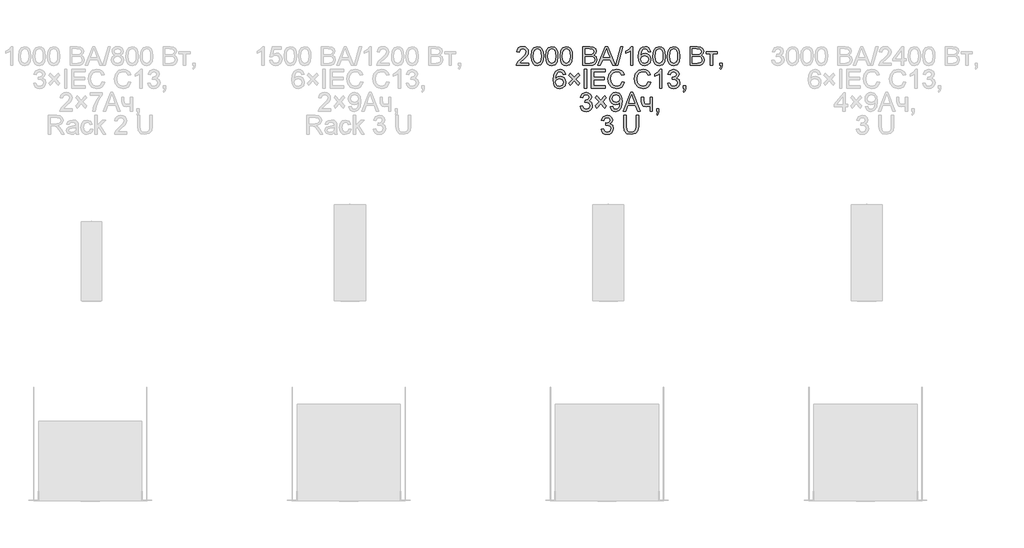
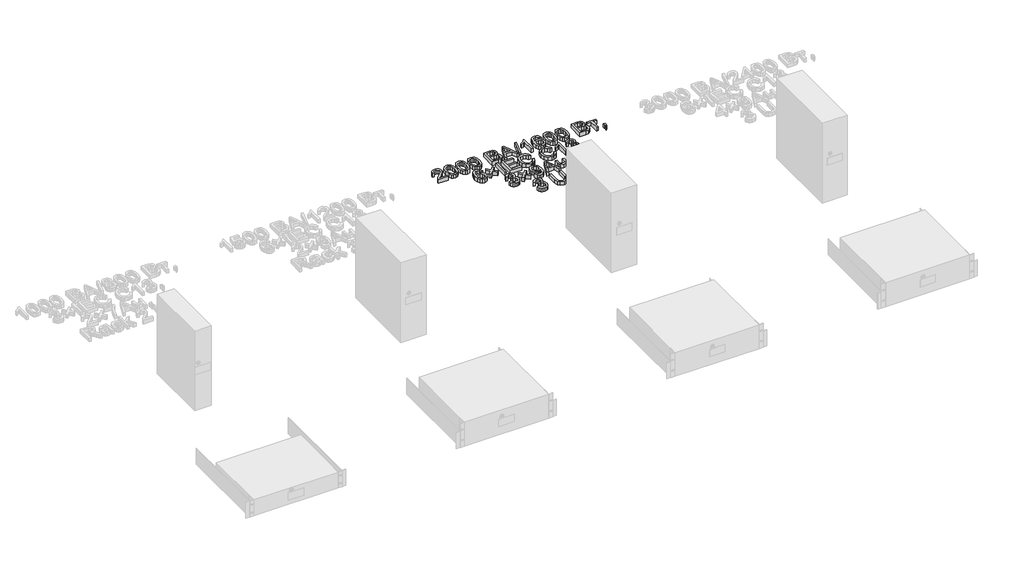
# One storey, part 73 of 74: 1 proxy.
"""IFC4 building model written with IfcOpenShell, lengths in millimetres."""

from ifc_helpers import new_model, si_unit, origin, origin_with_axes, place, context, project, spatial, polyline, outline, extrude, element, save

model = new_model("IFC4")

# Units and contexts
model_context = context("Model", 3, world=origin())
ifc_project = project(units=[si_unit("LENGTHUNIT", "METRE", prefix="MILLI")], contexts=[model_context])

# Site, building, storey
site = spatial("IfcSite", under=ifc_project)
building = spatial("IfcBuilding", under=site)
storey = spatial("IfcBuildingStorey", under=building, Name="Этаж 01", Elevation=0.0)

# Proxy
placement = place(None, origin())
element("IfcBuildingElementProxy", 1, Name="80 мм Arial", ObjectType="80 мм Arial", at=placement, inside=storey, context=model_context, shape_type="SweptSolid", body=[
    extrude(outline(polyline([(3213.6923443, 4972.4107725), (3213.6923443, 4962.3651415), (3160.9527815, 4962.3651415), (3162.031902, 4969.2911332), (3168.133838, 4979.954806), (3180.7104971, 4991.5994974), (3198.0549069, 5008.3356756), (3202.3910094, 5019.715492), (3198.3001616, 5028.9272572), (3187.6168685, 5032.6845586), (3176.4823067, 5029.0155489), (3172.2541163, 5018.871816), (3162.2084853, 5020.1275199), (3164.6438641, 5029.8445096), (3169.9094818, 5036.9421796), (3177.730653, 5041.2831871), (3187.8326926, 5042.7301896), (3198.0083086, 5041.1213191), (3205.8147645, 5036.2947073), (3210.7811714, 5029.0842202), (3212.4366404, 5020.3237236), (3210.6511865, 5010.7980325), (3204.7160236, 5000.9486052), (3190.32448, 4987.1849135), (3178.7680802, 4977.5218797), (3174.235774, 4972.4107725), (3213.6923443, 4972.4107725)])), origin_with_axes(), (0.0, 0.0, 1.0), 20.0),
    extrude(outline(polyline([(3223.7379753, 5001.9001933), (3226.6908414, 5025.0228029), (3235.4611482, 5038.3548465), (3250.1077567, 5042.7301896), (3261.8407398, 5040.1403004), (3269.9439539, 5032.6747484), (3274.6528434, 5020.7848024), (3276.4775381, 5001.9001933), (3273.5541025, 4978.8756855), (3264.8132263, 4965.5142114), (3250.1077567, 4961.1094377), (3239.6697182, 4963.022424), (3231.7430875, 4968.7613832), (3225.7392534, 4982.3533966), (3223.7379753, 5001.9001933)]), holes=[polyline([(3233.7836063, 5001.9198136), (3234.9608287, 4986.1180557), (3238.4924959, 4976.9725093), (3250.1077567, 4971.1550687), (3261.7230176, 4976.9921297), (3265.2546847, 4986.1425811), (3266.4319071, 5001.9198136), (3265.2939255, 5017.3659524), (3261.8799806, 5026.5826226), (3256.6315308, 5031.1590746), (3249.9900345, 5032.6845586), (3238.6494588, 5027.3085764), (3235.0000694, 5017.5180102), (3233.7836063, 5001.9198136)])]), origin_with_axes(), (0.0, 0.0, 1.0), 20.0),
    extrude(outline(polyline([(3285.2674653, 5001.9001933), (3288.2203314, 5025.0228029), (3296.9906382, 5038.3548465), (3311.6372467, 5042.7301896), (3323.3702298, 5040.1403004), (3331.4734439, 5032.6747484), (3336.1823334, 5020.7848024), (3338.0070281, 5001.9001933), (3335.0835925, 4978.8756855), (3326.3427163, 4965.5142114), (3311.6372467, 4961.1094377), (3301.1992082, 4963.022424), (3293.2725775, 4968.7613832), (3287.2687433, 4982.3533966), (3285.2674653, 5001.9001933)]), holes=[polyline([(3295.3130963, 5001.9198136), (3296.4903187, 4986.1180557), (3300.0219858, 4976.9725093), (3311.6372467, 4971.1550687), (3323.2525075, 4976.9921297), (3326.7841747, 4986.1425811), (3327.9613971, 5001.9198136), (3326.8234154, 5017.3659524), (3323.4094705, 5026.5826226), (3318.1610207, 5031.1590746), (3311.5195244, 5032.6845586), (3300.1789488, 5027.3085764), (3296.5295594, 5017.5180102), (3295.3130963, 5001.9198136)])]), origin_with_axes(), (0.0, 0.0, 1.0), 20.0),
    extrude(outline(polyline([(3346.7969552, 5001.9001933), (3349.7498214, 5025.0228029), (3358.5201281, 5038.3548465), (3373.1667366, 5042.7301896), (3384.8997197, 5040.1403004), (3393.0029338, 5032.6747484), (3397.7118234, 5020.7848024), (3399.5365181, 5001.9001933), (3396.6130825, 4978.8756855), (3387.8722063, 4965.5142114), (3373.1667366, 4961.1094377), (3362.7286982, 4963.022424), (3354.8020674, 4968.7613832), (3348.7982333, 4982.3533966), (3346.7969552, 5001.9001933)]), holes=[polyline([(3356.8425862, 5001.9198136), (3358.0198086, 4986.1180557), (3361.5514758, 4976.9725093), (3373.1667366, 4971.1550687), (3384.7819975, 4976.9921297), (3388.3136647, 4986.1425811), (3389.490887, 5001.9198136), (3388.3529054, 5017.3659524), (3384.9389605, 5026.5826226), (3379.6905107, 5031.1590746), (3373.0490144, 5032.6845586), (3361.7084388, 5027.3085764), (3358.0590494, 5017.5180102), (3356.8425862, 5001.9198136)])]), origin_with_axes(), (0.0, 0.0, 1.0), 20.0),
    extrude(outline(polyline([(3443.4861538, 4962.3651415), (3443.4861538, 5042.7301896), (3474.1527969, 5042.7301896), (3489.1721925, 5040.3659347), (3498.0406011, 5033.0965865), (3501.2485321, 5022.815511), (3498.5507308, 5013.4271625), (3490.3984658, 5006.3147772), (3500.296944, 4998.8197947), (3503.7599398, 4986.3216171), (3501.3956849, 4975.5206017), (3495.5390035, 4967.8294154), (3486.7981273, 4963.7483778), (3473.9173524, 4962.3651415), (3443.4861538, 4962.3651415)]), holes=[polyline([(3453.5317848, 4972.4107725), (3474.1331765, 4972.4107725), (3481.5889183, 4972.80318), (3487.8968682, 4974.9908516), (3492.0760077, 4979.4544865), (3493.7143088, 4986.2235152), (3491.7915123, 4994.0324237), (3485.5620438, 4998.6922623), (3473.1521578, 5000.0362578), (3453.5317848, 5000.0362578), (3453.5317848, 4972.4107725)]), polyline([(3453.5317848, 5010.0818888), (3471.8768336, 5010.0818888), (3482.5895573, 5010.9451853), (3489.0348498, 5014.663246), (3491.2029011, 5021.2066404), (3489.1820026, 5027.759845), (3483.3939926, 5031.6348687), (3470.4837871, 5032.6845586), (3453.5317848, 5032.6845586), (3453.5317848, 5010.0818888)])]), origin_with_axes(), (0.0, 0.0, 1.0), 20.0),
    extrude(outline(polyline([(3508.2137645, 4962.3651415), (3540.2930745, 5042.7301896), (3548.8475572, 5042.7301896), (3580.9268671, 4962.3651415), (3570.3122453, 4962.3651415), (3561.1102903, 4987.4792191), (3528.010721, 4987.4792191), (3518.8283864, 4962.3651415), (3508.2137645, 4962.3651415)]), holes=[polyline([(3531.6993511, 4997.5248501), (3557.4412806, 4997.5248501), (3550.2013629, 5017.2825658), (3544.5703158, 5032.6845586), (3539.5671207, 5019.0091586), (3531.6993511, 4997.5248501)])]), origin_with_axes(), (0.0, 0.0, 1.0), 20.0),
    extrude(outline(polyline([(3582.8692841, 4962.3651415), (3605.4719539, 5042.7301896), (3614.5365662, 5042.7301896), (3591.9338964, 4962.3651415), (3582.8692841, 4962.3651415)])), origin_with_axes(), (0.0, 0.0, 1.0), 20.0),
    extrude(outline(polyline([(3656.9558128, 4962.3651415), (3646.9101818, 4962.3651415), (3646.9101818, 5024.9933724), (3637.3943009, 5018.2145335), (3626.8189198, 5013.142667), (3626.8189198, 5022.6389276), (3641.5440098, 5032.0370863), (3650.4810897, 5042.7301896), (3656.9558128, 5042.7301896), (3656.9558128, 4962.3651415)])), origin_with_axes(), (0.0, 0.0, 1.0), 20.0),
    extrude(outline(polyline([(3732.2980454, 5021.3832237), (3722.2524144, 5020.1275199), (3718.446062, 5028.5054192), (3708.3808107, 5032.6845586), (3699.3161983, 5030.2516324), (3692.4588779, 5021.1183487), (3689.6041136, 5003.2147583), (3698.4627121, 5011.2296807), (3709.4403108, 5013.8490005), (3718.7207473, 5012.0586414), (3726.5100354, 5006.6875643), (3731.7928208, 4998.4813433), (3733.5537493, 4988.1855525), (3730.2379063, 4974.3237589), (3721.1144328, 4964.5135724), (3707.9491624, 4961.1094377), (3696.5521782, 4963.3657806), (3687.4753031, 4970.1348093), (3681.5376877, 4982.0836165), (3679.5584826, 4999.8792948), (3681.7559644, 5019.8871703), (3688.3484097, 5033.5674754), (3697.3492559, 5040.4395111), (3709.0086626, 5042.7301896), (3717.8231152, 5041.3126177), (3724.8815444, 5037.0599018), (3732.2980454, 5021.3832237)]), holes=[polyline([(3689.6041136, 4988.3425155), (3691.9291278, 4979.64088), (3698.1095453, 4973.3231199), (3707.1643475, 4971.1550687), (3719.0052427, 4975.6481341), (3723.5081183, 4987.8520062), (3719.0641038, 4999.5359383), (3706.7523197, 5003.8033695), (3694.5974986, 4999.5359383), (3689.6041136, 4988.3425155)])]), origin_with_axes(), (0.0, 0.0, 1.0), 20.0),
    extrude(outline(polyline([(3742.3436764, 5001.9001933), (3745.2965426, 5025.0228029), (3754.0668494, 5038.3548465), (3768.7134579, 5042.7301896), (3780.446441, 5040.1403004), (3788.549655, 5032.6747484), (3793.2585446, 5020.7848024), (3795.0832393, 5001.9001933), (3792.1598037, 4978.8756855), (3783.4189275, 4965.5142114), (3768.7134579, 4961.1094377), (3758.2754194, 4963.022424), (3750.3487887, 4968.7613832), (3744.3449545, 4982.3533966), (3742.3436764, 5001.9001933)]), holes=[polyline([(3752.3893075, 5001.9198136), (3753.5665298, 4986.1180557), (3757.098197, 4976.9725093), (3768.7134579, 4971.1550687), (3780.3287187, 4976.9921297), (3783.8603859, 4986.1425811), (3785.0376083, 5001.9198136), (3783.8996266, 5017.3659524), (3780.4856817, 5026.5826226), (3775.2372319, 5031.1590746), (3768.5957356, 5032.6845586), (3757.25516, 5027.3085764), (3753.6057706, 5017.5180102), (3752.3893075, 5001.9198136)])]), origin_with_axes(), (0.0, 0.0, 1.0), 20.0),
    extrude(outline(polyline([(3803.8731664, 5001.9001933), (3806.8260326, 5025.0228029), (3815.5963393, 5038.3548465), (3830.2429478, 5042.7301896), (3841.9759309, 5040.1403004), (3850.079145, 5032.6747484), (3854.7880345, 5020.7848024), (3856.6127292, 5001.9001933), (3853.6892937, 4978.8756855), (3844.9484174, 4965.5142114), (3830.2429478, 4961.1094377), (3819.8049094, 4963.022424), (3811.8782786, 4968.7613832), (3805.8744445, 4982.3533966), (3803.8731664, 5001.9001933)]), holes=[polyline([(3813.9187974, 5001.9198136), (3815.0960198, 4986.1180557), (3818.627687, 4976.9725093), (3830.2429478, 4971.1550687), (3841.8582087, 4976.9921297), (3845.3898758, 4986.1425811), (3846.5670982, 5001.9198136), (3845.4291166, 5017.3659524), (3842.0151717, 5026.5826226), (3836.7667219, 5031.1590746), (3830.1252256, 5032.6845586), (3818.78465, 5027.3085764), (3815.1352606, 5017.5180102), (3813.9187974, 5001.9198136)])]), origin_with_axes(), (0.0, 0.0, 1.0), 20.0),
    extrude(outline(polyline([(3900.5623649, 4962.3651415), (3900.5623649, 5042.7301896), (3931.2290081, 5042.7301896), (3946.2484036, 5040.3659347), (3955.1168123, 5033.0965865), (3958.3247433, 5022.815511), (3955.626942, 5013.4271625), (3947.474677, 5006.3147772), (3957.3731552, 4998.8197947), (3960.836151, 4986.3216171), (3958.4718961, 4975.5206017), (3952.6152147, 4967.8294154), (3943.8743385, 4963.7483778), (3930.9935636, 4962.3651415), (3900.5623649, 4962.3651415)]), holes=[polyline([(3910.6079959, 5010.0818888), (3928.9530448, 5010.0818888), (3939.6657685, 5010.9451853), (3946.111061, 5014.663246), (3948.2791123, 5021.2066404), (3946.2582138, 5027.759845), (3940.4702038, 5031.6348687), (3927.5599983, 5032.6845586), (3910.6079959, 5032.6845586), (3910.6079959, 5010.0818888)]), polyline([(3910.6079959, 4972.4107725), (3931.2093877, 4972.4107725), (3938.6651294, 4972.80318), (3944.9730794, 4974.9908516), (3949.1522189, 4979.4544865), (3950.79052, 4986.2235152), (3948.8677234, 4994.0324237), (3942.638255, 4998.6922623), (3930.228369, 5000.0362578), (3910.6079959, 5000.0362578), (3910.6079959, 4972.4107725)])]), origin_with_axes(), (0.0, 0.0, 1.0), 20.0),
    extrude(outline(polyline([(3968.3703743, 5021.3832237), (4016.0871216, 5021.3832237), (4016.0871216, 5011.3375927), (3997.2515635, 5011.3375927), (3997.2515635, 4962.3651415), (3987.2059324, 4962.3651415), (3987.2059324, 5011.3375927), (3968.3703743, 5011.3375927), (3968.3703743, 5021.3832237)])), origin_with_axes(), (0.0, 0.0, 1.0), 20.0),
    extrude(outline(polyline([(4027.3884565, 4962.3651415), (4027.3884565, 4972.4107725), (4037.4340875, 4972.4107725), (4037.4340875, 4962.3651415), (4035.6290132, 4952.0938762), (4029.8998642, 4946.0409911), (4027.3884565, 4949.8081028), (4031.0770866, 4954.1442052), (4032.3916516, 4962.3651415), (4027.3884565, 4962.3651415)])), origin_with_axes(), (0.0, 0.0, 1.0), 20.0),
    extrude(outline(polyline([(3370.027477, 4923.8033695), (3359.9818459, 4922.5476656), (3356.1754936, 4930.9255649), (3346.1102422, 4935.1047044), (3337.0456298, 4932.6717781), (3330.1883094, 4923.5384944), (3327.3335451, 4905.634904), (3336.1921436, 4913.6498264), (3347.1697423, 4916.2691462), (3356.4501788, 4914.4787872), (3364.2394669, 4909.10771), (3369.5222523, 4900.901489), (3371.2831808, 4890.6056982), (3367.9673378, 4876.7439046), (3358.8438643, 4866.9337181), (3345.678594, 4863.5295834), (3334.2816098, 4865.7859263), (3325.2047347, 4872.554955), (3319.2671193, 4884.5037622), (3317.2879141, 4902.2994406), (3319.4853959, 4922.307316), (3326.0778413, 4935.9876211), (3335.0786874, 4942.8596568), (3346.7380941, 4945.1503354), (3355.5525467, 4943.7327634), (3362.6109759, 4939.4800476), (3370.027477, 4923.8033695)]), holes=[polyline([(3327.3335451, 4890.7626612), (3329.6585594, 4882.0610257), (3335.8389769, 4875.7432656), (3344.893779, 4873.5752144), (3356.7346742, 4878.0682798), (3361.2375498, 4890.2721519), (3356.7935353, 4901.956084), (3344.4817512, 4906.2235152), (3332.3269301, 4901.956084), (3327.3335451, 4890.7626612)])]), origin_with_axes(), (0.0, 0.0, 1.0), 20.0),
    extrude(outline(polyline([(3383.9187011, 4887.387957), (3399.8700644, 4904.3399594), (3383.9187011, 4921.2919617), (3390.118739, 4930.0818888), (3407.1492228, 4912.0703864), (3424.1012252, 4930.0818888), (3430.301263, 4921.2919617), (3414.3498997, 4904.3399594), (3430.301263, 4887.387957), (3424.1012252, 4878.5980299), (3407.1492228, 4896.6095324), (3390.118739, 4878.5980299), (3383.9187011, 4887.387957)])), origin_with_axes(), (0.0, 0.0, 1.0), 20.0),
    extrude(outline(polyline([(3450.3925251, 4864.7852873), (3450.3925251, 4945.1503354), (3460.4381561, 4945.1503354), (3460.4381561, 4864.7852873), (3450.3925251, 4864.7852873)])), origin_with_axes(), (0.0, 0.0, 1.0), 20.0),
    extrude(outline(polyline([(3480.5294181, 4864.7852873), (3480.5294181, 4945.1503354), (3538.2917965, 4945.1503354), (3538.2917965, 4935.1047044), (3490.5750491, 4935.1047044), (3490.5750491, 4911.2463307), (3535.7803887, 4911.2463307), (3535.7803887, 4901.2006997), (3490.5750491, 4901.2006997), (3490.5750491, 4874.8309183), (3539.5475003, 4874.8309183), (3539.5475003, 4864.7852873), (3480.5294181, 4864.7852873)])), origin_with_axes(), (0.0, 0.0, 1.0), 20.0),
    extrude(outline(polyline([(3611.1226213, 4893.3525505), (3621.1682523, 4890.7626612), (3616.5329392, 4879.0566561), (3609.2586859, 4870.504626), (3599.7035642, 4865.273344), (3588.2256459, 4863.5295834), (3567.3201384, 4868.8074637), (3555.0574052, 4884.0917344), (3550.8488352, 4905.5760429), (3555.6067757, 4927.4135181), (3569.1350229, 4941.5696173), (3588.44147, 4946.4060392), (3599.455857, 4944.8413145), (3608.5621626, 4940.1471402), (3615.4758916, 4932.612917), (3619.9125485, 4922.5280452), (3609.8669174, 4920.1343597), (3601.6263607, 4932.4853846), (3588.0490626, 4936.3604082), (3572.3331437, 4932.0635465), (3563.4549249, 4920.5267672), (3560.8944662, 4905.5956633), (3563.9258139, 4888.2904942), (3573.3632133, 4877.234414), (3587.2250069, 4873.5752144), (3602.5975692, 4878.5587892), (3611.1226213, 4893.3525505)])), origin_with_axes(), (0.0, 0.0, 1.0), 20.0),
    extrude(outline(polyline([(3722.8802664, 4893.3525505), (3732.9258974, 4890.7626612), (3728.2905842, 4879.0566561), (3721.0163309, 4870.504626), (3711.4612092, 4865.273344), (3699.983291, 4863.5295834), (3679.0777835, 4868.8074637), (3666.8150503, 4884.0917344), (3662.6064803, 4905.5760429), (3667.3644207, 4927.4135181), (3680.892668, 4941.5696173), (3700.1991151, 4946.4060392), (3711.213502, 4944.8413145), (3720.3198077, 4940.1471402), (3727.2335366, 4932.612917), (3731.6701935, 4922.5280452), (3721.6245625, 4920.1343597), (3713.3840058, 4932.4853846), (3699.8067076, 4936.3604082), (3684.0907888, 4932.0635465), (3675.21257, 4920.5267672), (3672.6521113, 4905.5956633), (3675.6834589, 4888.2904942), (3685.1208584, 4877.234414), (3698.9826519, 4873.5752144), (3714.3552143, 4878.5587892), (3722.8802664, 4893.3525505)])), origin_with_axes(), (0.0, 0.0, 1.0), 20.0),
    extrude(outline(polyline([(3780.6426447, 4864.7852873), (3770.5970137, 4864.7852873), (3770.5970137, 4927.4135181), (3761.0811327, 4920.6346792), (3750.5057516, 4915.5628128), (3750.5057516, 4925.0590733), (3765.2308416, 4934.457232), (3774.1679216, 4945.1503354), (3780.6426447, 4945.1503354), (3780.6426447, 4864.7852873)])), origin_with_axes(), (0.0, 0.0, 1.0), 20.0),
    extrude(outline(polyline([(3804.5010184, 4886.1322532), (3814.5466494, 4887.387957), (3820.0894048, 4876.8125759), (3830.4587719, 4873.5752144), (3842.662644, 4878.0290391), (3847.1949502, 4889.0556887), (3842.7018847, 4899.4446763), (3831.2828276, 4903.5551445), (3824.2391137, 4902.4564036), (3825.3574749, 4912.5020346), (3826.9663455, 4912.3843123), (3838.3657823, 4915.2685072), (3843.4278385, 4924.1369158), (3839.7588288, 4931.9948752), (3830.3018089, 4935.1047044), (3820.7270669, 4931.9654447), (3815.8023532, 4922.5476656), (3805.7567222, 4923.8033695), (3813.9776585, 4939.558529), (3829.9486422, 4945.1503354), (3842.0642226, 4942.393673), (3850.5402238, 4934.8594497), (3853.4734695, 4924.725527), (3850.6873766, 4915.4647109), (3842.4468199, 4908.8134044), (3853.3949881, 4901.9462739), (3857.2405812, 4888.8791054), (3855.3177846, 4879.0885392), (3849.5493949, 4870.9068437), (3840.8428544, 4865.3738984), (3830.1056052, 4863.5295834), (3820.3935205, 4865.1041183), (3812.4865102, 4869.8277231), (3806.9879006, 4877.0529255), (3804.5010184, 4886.1322532)])), origin_with_axes(), (0.0, 0.0, 1.0), 20.0),
    extrude(outline(polyline([(3871.0533238, 4864.7852873), (3871.0533238, 4874.8309183), (3881.0989548, 4874.8309183), (3881.0989548, 4864.7852873), (3879.2938805, 4854.5140219), (3873.5647316, 4848.4611369), (3871.0533238, 4852.2282485), (3874.741954, 4856.5643509), (3876.056519, 4864.7852873), (3871.0533238, 4864.7852873)])), origin_with_axes(), (0.0, 0.0, 1.0), 20.0),
    extrude(outline(polyline([(3432.1848189, 4788.5523989), (3442.2304499, 4789.8081028), (3447.7732053, 4779.2327217), (3458.1425724, 4775.9953601), (3470.3464445, 4780.4491848), (3474.8787507, 4791.4758345), (3470.3856852, 4801.864822), (3458.9666281, 4805.9752902), (3451.9229142, 4804.8765493), (3453.0412754, 4814.9221803), (3454.650146, 4814.8044581), (3466.0495828, 4817.6886529), (3471.111639, 4826.5570615), (3467.4426293, 4834.4150209), (3457.9856095, 4837.5248501), (3448.4108674, 4834.3855904), (3443.4861538, 4824.9678113), (3433.4405227, 4826.2235152), (3441.6614591, 4841.9786748), (3457.6324427, 4847.5704811), (3469.7480231, 4844.8138187), (3478.2240243, 4837.2795954), (3481.1572701, 4827.1456727), (3478.3711771, 4817.8848566), (3470.1306204, 4811.2335502), (3481.0787886, 4804.3664196), (3484.9243817, 4791.2992511), (3483.0015851, 4781.5086849), (3477.2331954, 4773.3269894), (3468.5266549, 4767.7940442), (3457.7894057, 4765.9497291), (3448.0773211, 4767.524264), (3440.1703107, 4772.2478689), (3434.6717011, 4779.4730712), (3432.1848189, 4788.5523989)])), origin_with_axes(), (0.0, 0.0, 1.0), 20.0),
    extrude(outline(polyline([(3497.5599019, 4789.8081028), (3513.5112653, 4806.7601051), (3497.5599019, 4823.7121074), (3503.7599398, 4832.5020346), (3520.7904237, 4814.4905321), (3537.742426, 4832.5020346), (3543.9424639, 4823.7121074), (3527.9911006, 4806.7601051), (3543.9424639, 4789.8081028), (3537.742426, 4781.0181756), (3520.7904237, 4799.0296781), (3503.7599398, 4781.0181756), (3497.5599019, 4789.8081028)])), origin_with_axes(), (0.0, 0.0, 1.0), 20.0),
    extrude(outline(polyline([(3560.2666143, 4787.296695), (3570.3122453, 4788.5523989), (3574.8249311, 4778.9678466), (3583.3794138, 4775.9953601), (3591.5120584, 4777.9083465), (3597.0253833, 4783.0194537), (3600.3117957, 4791.7505197), (3601.7637034, 4803.4050213), (3601.7048422, 4805.3670586), (3593.6702995, 4797.7543539), (3582.65346, 4794.8309183), (3573.4931983, 4796.6163722), (3565.8682308, 4801.9727341), (3560.7252405, 4810.2476264), (3559.0109104, 4820.7886718), (3560.8086271, 4831.6779789), (3566.2017772, 4840.2128412), (3574.3025387, 4845.7310711), (3584.2230898, 4847.5704811), (3598.536152, 4843.3717213), (3608.3855793, 4831.4032937), (3611.7504733, 4808.9183461), (3608.3953895, 4784.5204122), (3598.4184297, 4770.6978594), (3582.9085248, 4765.9497291), (3574.3197065, 4767.3501332), (3567.4672912, 4771.5513456), (3560.2666143, 4787.296695)]), holes=[polyline([(3601.7048422, 4821.0241163), (3597.3687398, 4833.0710254), (3585.8515808, 4837.5248501), (3573.765431, 4832.7276689), (3569.0565414, 4820.2981625), (3573.5103661, 4809.1636008), (3585.5768956, 4804.8765493), (3597.1627259, 4809.1636008), (3601.7048422, 4821.0241163)])]), origin_with_axes(), (0.0, 0.0, 1.0), 20.0),
    extrude(outline(polyline([(3614.9485941, 4767.205433), (3647.027904, 4847.5704811), (3655.5823867, 4847.5704811), (3687.6616967, 4767.205433), (3677.0470748, 4767.205433), (3667.8451199, 4792.3195105), (3634.7455505, 4792.3195105), (3625.5632159, 4767.205433), (3614.9485941, 4767.205433)]), holes=[polyline([(3638.4341806, 4802.3651415), (3664.1761101, 4802.3651415), (3656.9361924, 4822.1228572), (3651.3051454, 4837.5248501), (3646.3019502, 4823.84945), (3638.4341806, 4802.3651415)])]), origin_with_axes(), (0.0, 0.0, 1.0), 20.0),
    extrude(outline(polyline([(3693.3712252, 4826.2235152), (3703.4168563, 4826.2235152), (3703.4168563, 4814.9025599), (3704.2311017, 4804.2879381), (3708.1453662, 4798.5391688), (3715.9150339, 4796.0866221), (3729.7866377, 4799.12778), (3729.7866377, 4826.2235152), (3739.8322687, 4826.2235152), (3739.8322687, 4767.205433), (3729.7866377, 4767.205433), (3729.7866377, 4789.4941768), (3713.2270428, 4786.0409911), (3701.8374162, 4789.6413296), (3695.1370588, 4798.4606873), (3693.3712252, 4809.9386055), (3693.3712252, 4826.2235152)])), origin_with_axes(), (0.0, 0.0, 1.0), 20.0),
    extrude(outline(polyline([(3757.412123, 4767.205433), (3757.412123, 4777.251064), (3767.457754, 4777.251064), (3767.457754, 4767.205433), (3765.6526797, 4756.9341677), (3759.9235307, 4750.8812826), (3757.412123, 4754.6483942), (3761.1007531, 4758.9844967), (3762.4153181, 4767.205433), (3757.412123, 4767.205433)])), origin_with_axes(), (0.0, 0.0, 1.0), 20.0),
    extrude(outline(polyline([(3521.3397941, 4690.9725446), (3531.3854251, 4692.2282485), (3536.9281805, 4681.6528674), (3547.2975477, 4678.4155058), (3559.5014198, 4682.8693305), (3564.0337259, 4693.8959802), (3559.5406605, 4704.2849677), (3548.1216034, 4708.3954359), (3541.0778894, 4707.296695), (3542.1962507, 4717.342326), (3543.8051213, 4717.2246038), (3555.204558, 4720.1087986), (3560.2666143, 4728.9772073), (3556.5976045, 4736.8351667), (3547.1405847, 4739.9449958), (3537.5658427, 4736.8057361), (3532.641129, 4727.387957), (3522.595498, 4728.6436609), (3530.8164343, 4744.3988205), (3546.787418, 4749.9906268), (3558.9029984, 4747.2339644), (3567.3789995, 4739.6997411), (3570.3122453, 4729.5658184), (3567.5261523, 4720.3050024), (3559.2855956, 4713.6536959), (3570.2337638, 4706.7865653), (3574.0793569, 4693.7193968), (3572.1565604, 4683.9288307), (3566.3881707, 4675.7471351), (3557.6816301, 4670.2141899), (3546.944381, 4668.3698748), (3537.2322963, 4669.9444098), (3529.325286, 4674.6680146), (3523.8266764, 4681.893217), (3521.3397941, 4690.9725446)])), origin_with_axes(), (0.0, 0.0, 1.0), 20.0),
    extrude(outline(polyline([(3670.7685555, 4749.9906268), (3680.8141865, 4749.9906268), (3680.8141865, 4703.6276852), (3678.0869546, 4684.4095298), (3668.2571477, 4672.8335097), (3649.6177933, 4668.3698748), (3631.2629343, 4672.2547087), (3621.0799606, 4683.5069927), (3618.0289926, 4703.6276852), (3618.0289926, 4749.9906268), (3628.0746237, 4749.9906268), (3628.0746237, 4703.980852), (3630.0562813, 4688.6671508), (3636.8645508, 4681.0838766), (3648.6760154, 4678.4155058), (3658.8933247, 4679.7349759), (3665.6868788, 4683.6933862), (3669.4981363, 4691.4041928), (3670.7685555, 4703.980852), (3670.7685555, 4749.9906268)])), origin_with_axes(), (0.0, 0.0, 1.0), 20.0),
])

save(model, "model.ifc")
